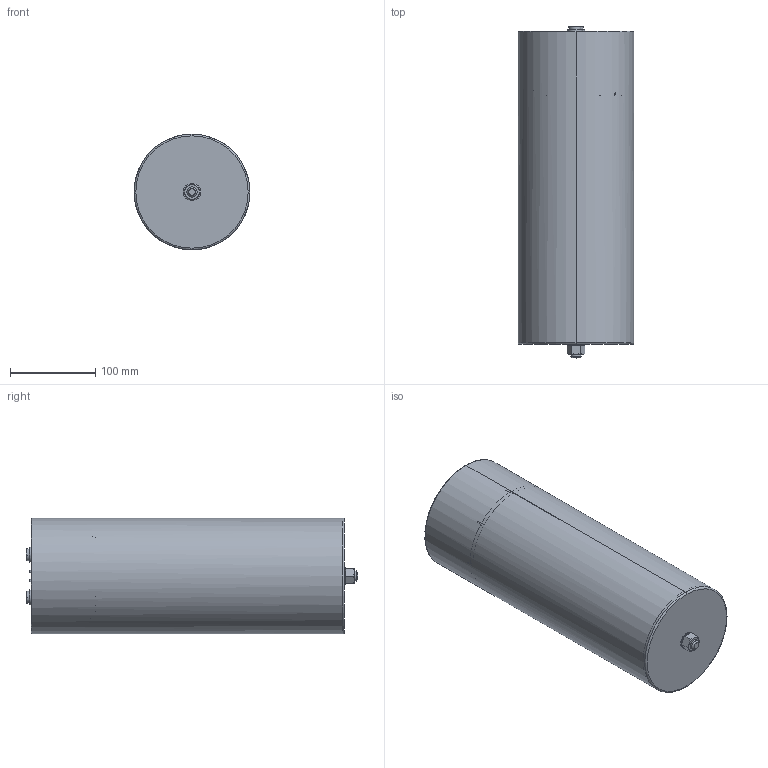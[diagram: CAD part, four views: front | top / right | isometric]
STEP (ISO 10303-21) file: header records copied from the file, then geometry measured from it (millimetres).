
FILE_DESCRIPTION (( 'STEP AP214' ), '1' );
FILE_NAME ('B25690 Series ¦µ136 Hc368 Ht374.STEP', '2025-01-14T08:19:46', ( '' ), ( '' ), 'SwSTEP 2.0', 'SolidWorks 2019', '' );
FILE_SCHEMA (( 'AUTOMOTIVE_DESIGN' ));
Length unit declared in the file: millimetre
Products named in the file (1): B25690 Series 朴136 Hc368 Ht374
Bounding box: 136 x 390 x 136 mm (x, y, z)
Volume: 356742 mm3; surface area: 368719.5 mm2
Topology: 1 solids, 3 shells, 233 faces, 593 edges, 364 vertices
Faces by surface type: plane 104, cylinder 75, cone 38, torus 8, sphere 8
Entity records: 7257 total; most frequent: CARTESIAN_POINT 1649, DIRECTION 1199, ORIENTED_EDGE 1162, EDGE_CURVE 581, AXIS2_PLACEMENT_3D 478, VERTEX_POINT 364, EDGE_LOOP 245, CIRCLE 244
